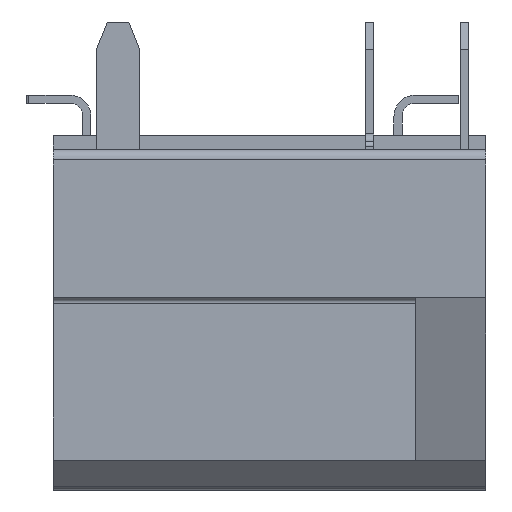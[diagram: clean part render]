
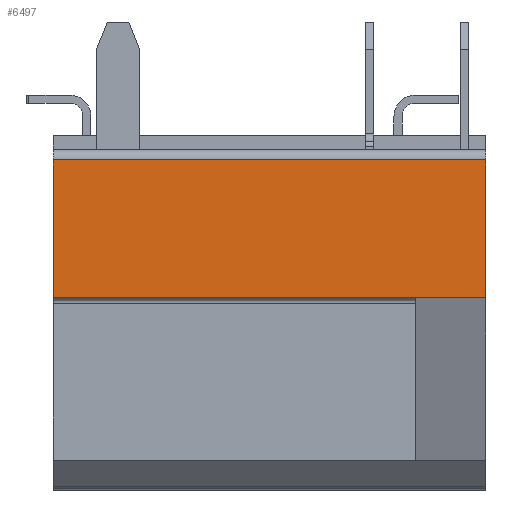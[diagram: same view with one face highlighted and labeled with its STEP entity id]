
A CAD part, left-side view. The second image highlights one B-rep face of the part: STEP entity #6497.
In plain terms, the highlighted planar face has unit normal (-1, 0, 0).
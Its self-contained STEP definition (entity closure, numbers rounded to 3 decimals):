
#554 = LINE ( 'NONE', #4856, #12367 ) ;
#632 = CARTESIAN_POINT ( 'NONE',  ( 0., 2.75, 0. ) ) ;
#900 = CARTESIAN_POINT ( 'NONE',  ( 0., 2.75, -6.7 ) ) ;
#1780 = CARTESIAN_POINT ( 'NONE',  ( 0., 2.75, -8. ) ) ;
#2777 = DIRECTION ( 'NONE',  ( 0., 0., 1. ) ) ;
#2987 = EDGE_CURVE ( 'NONE', #15552, #15902, #554, .T. ) ;
#3959 = CARTESIAN_POINT ( 'NONE',  ( 0., 2.75, -8. ) ) ;
#3998 = PLANE ( 'NONE',  #25467 ) ;
#4202 = LINE ( 'NONE', #10614, #26395 ) ;
#4319 = CARTESIAN_POINT ( 'NONE',  ( 0., 2.75, -8. ) ) ;
#4856 = CARTESIAN_POINT ( 'NONE',  ( 0., 0.2, -8. ) ) ;
#5113 = CARTESIAN_POINT ( 'NONE',  ( 0., 2.75, 0. ) ) ;
#5171 = ORIENTED_EDGE ( 'NONE', *, *, #20493, .T. ) ;
#5360 = VERTEX_POINT ( 'NONE', #4319 ) ;
#5999 = EDGE_CURVE ( 'NONE', #21876, #15902, #15590, .T. ) ;
#6497 = ADVANCED_FACE ( 'NONE', ( #10404 ), #3998, .T. ) ;
#6653 = VECTOR ( 'NONE', #22287, 1000. ) ;
#7506 = EDGE_CURVE ( 'NONE', #24747, #21876, #4202, .T. ) ;
#8109 = ORIENTED_EDGE ( 'NONE', *, *, #14421, .F. ) ;
#8506 = ORIENTED_EDGE ( 'NONE', *, *, #2987, .T. ) ;
#8729 = VECTOR ( 'NONE', #25863, 1000. ) ;
#10404 = FACE_OUTER_BOUND ( 'NONE', #26073, .T. ) ;
#10614 = CARTESIAN_POINT ( 'NONE',  ( 0., 2.75, -6.7 ) ) ;
#12367 = VECTOR ( 'NONE', #24106, 1000. ) ;
#12634 = DIRECTION ( 'NONE',  ( -1., 0., 0. ) ) ;
#12952 = CARTESIAN_POINT ( 'NONE',  ( 0., 0.2, -8. ) ) ;
#13914 = LINE ( 'NONE', #3959, #6653 ) ;
#14421 = EDGE_CURVE ( 'NONE', #5360, #24747, #13914, .T. ) ;
#15552 = VERTEX_POINT ( 'NONE', #12952 ) ;
#15590 = LINE ( 'NONE', #5113, #25836 ) ;
#15902 = VERTEX_POINT ( 'NONE', #23378 ) ;
#16323 = ORIENTED_EDGE ( 'NONE', *, *, #7506, .F. ) ;
#16449 = ORIENTED_EDGE ( 'NONE', *, *, #5999, .F. ) ;
#17207 = CARTESIAN_POINT ( 'NONE',  ( 0., 2.75, -8. ) ) ;
#19595 = LINE ( 'NONE', #17207, #8729 ) ;
#20493 = EDGE_CURVE ( 'NONE', #5360, #15552, #19595, .T. ) ;
#21876 = VERTEX_POINT ( 'NONE', #632 ) ;
#22132 = DIRECTION ( 'NONE',  ( 0., -1., 0. ) ) ;
#22287 = DIRECTION ( 'NONE',  ( 0., 0., 1. ) ) ;
#23378 = CARTESIAN_POINT ( 'NONE',  ( 0., 0.2, 0. ) ) ;
#24106 = DIRECTION ( 'NONE',  ( 0., 0., 1. ) ) ;
#24747 = VERTEX_POINT ( 'NONE', #900 ) ;
#25467 = AXIS2_PLACEMENT_3D ( 'NONE', #1780, #12634, #27136 ) ;
#25836 = VECTOR ( 'NONE', #22132, 1000. ) ;
#25863 = DIRECTION ( 'NONE',  ( 0., -1., 0. ) ) ;
#26073 = EDGE_LOOP ( 'NONE', ( #16449, #16323, #8109, #5171, #8506 ) ) ;
#26395 = VECTOR ( 'NONE', #2777, 1000. ) ;
#27136 = DIRECTION ( 'NONE',  ( 0., 0., 1. ) ) ;
